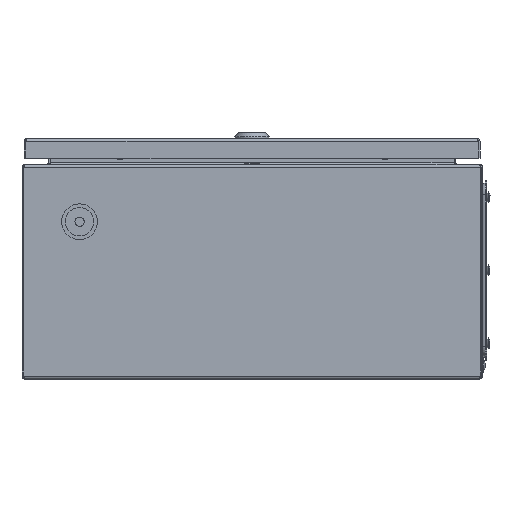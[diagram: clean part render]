
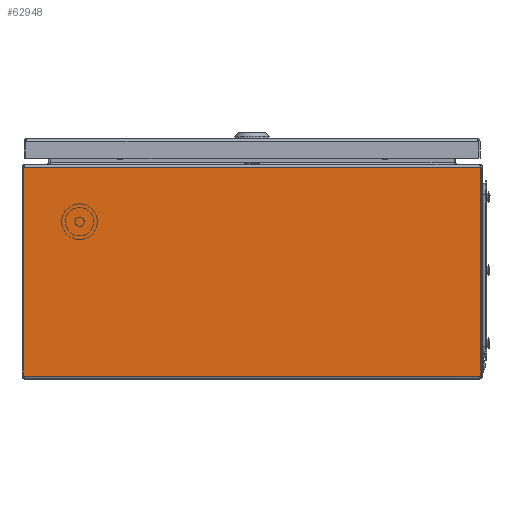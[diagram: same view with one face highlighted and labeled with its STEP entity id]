
A CAD part, left-side view. The second image highlights one B-rep face of the part: STEP entity #62948.
In plain terms, the highlighted planar face has unit normal (-1, 0, 0).
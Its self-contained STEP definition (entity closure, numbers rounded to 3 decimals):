
#2671 = ORIENTED_EDGE ( 'NONE', *, *, #141591, .T. ) ;
#9606 = CARTESIAN_POINT ( 'NONE',  ( -200., -198.623, 2.7 ) ) ;
#19235 = DIRECTION ( 'NONE',  ( 0., 0., 1. ) ) ;
#20990 = CARTESIAN_POINT ( 'NONE',  ( -200., -2200., 184.05 ) ) ;
#23463 = CARTESIAN_POINT ( 'NONE',  ( -200., -198.623, 184.05 ) ) ;
#23541 = VERTEX_POINT ( 'NONE', #62544 ) ;
#26897 = EDGE_LOOP ( 'NONE', ( #152152, #84764, #178615, #93945, #40106, #2671, #90837, #55240 ) ) ;
#28999 = CARTESIAN_POINT ( 'NONE',  ( -200., 198.729, 184.05 ) ) ;
#30241 = VERTEX_POINT ( 'NONE', #166541 ) ;
#32540 = CARTESIAN_POINT ( 'NONE',  ( -200., 198.623, 184.05 ) ) ;
#33389 = VECTOR ( 'NONE', #177936, 1000. ) ;
#37192 = DIRECTION ( 'NONE',  ( 0., 1., 0. ) ) ;
#40106 = ORIENTED_EDGE ( 'NONE', *, *, #147275, .F. ) ;
#42133 = LINE ( 'NONE', #28999, #84663 ) ;
#51034 = PLANE ( 'NONE',  #150312 ) ;
#55038 = LINE ( 'NONE', #166608, #184135 ) ;
#55240 = ORIENTED_EDGE ( 'NONE', *, *, #173904, .T. ) ;
#60308 = DIRECTION ( 'NONE',  ( 0., -1., 0. ) ) ;
#61707 = DIRECTION ( 'NONE',  ( 0., 1., 0. ) ) ;
#62544 = CARTESIAN_POINT ( 'NONE',  ( -200., 198.729, 2.7 ) ) ;
#62948 = ADVANCED_FACE ( 'NONE', ( #166386 ), #51034, .F. ) ;
#63575 = LINE ( 'NONE', #76772, #33389 ) ;
#67484 = EDGE_CURVE ( 'NONE', #90804, #23541, #68168, .T. ) ;
#68168 = LINE ( 'NONE', #79439, #98073 ) ;
#71654 = VERTEX_POINT ( 'NONE', #23463 ) ;
#72297 = VECTOR ( 'NONE', #60308, 1000. ) ;
#72309 = CARTESIAN_POINT ( 'NONE',  ( -200., 198.623, 2.7 ) ) ;
#72561 = LINE ( 'NONE', #159649, #72297 ) ;
#74720 = VERTEX_POINT ( 'NONE', #9606 ) ;
#74986 = VECTOR ( 'NONE', #61707, 1000. ) ;
#76772 = CARTESIAN_POINT ( 'NONE',  ( -200., 198.729, 2.7 ) ) ;
#79439 = CARTESIAN_POINT ( 'NONE',  ( -200., 198.623, 2.7 ) ) ;
#79913 = VECTOR ( 'NONE', #155344, 1000. ) ;
#84663 = VECTOR ( 'NONE', #87180, 1000. ) ;
#84764 = ORIENTED_EDGE ( 'NONE', *, *, #130152, .F. ) ;
#86971 = CARTESIAN_POINT ( 'NONE',  ( -200., -198.729, 2.7 ) ) ;
#87180 = DIRECTION ( 'NONE',  ( 0., -1., 0. ) ) ;
#89842 = LINE ( 'NONE', #104860, #74986 ) ;
#90804 = VERTEX_POINT ( 'NONE', #72309 ) ;
#90837 = ORIENTED_EDGE ( 'NONE', *, *, #185375, .T. ) ;
#93945 = ORIENTED_EDGE ( 'NONE', *, *, #67484, .F. ) ;
#94236 = DIRECTION ( 'NONE',  ( 1., 0., 0. ) ) ;
#95146 = VERTEX_POINT ( 'NONE', #103193 ) ;
#96115 = DIRECTION ( 'NONE',  ( 0., 0., -1. ) ) ;
#98073 = VECTOR ( 'NONE', #37192, 1000. ) ;
#100057 = LINE ( 'NONE', #157186, #79913 ) ;
#102903 = LINE ( 'NONE', #86971, #146237 ) ;
#103193 = CARTESIAN_POINT ( 'NONE',  ( -200., -198.729, 2.7 ) ) ;
#104860 = CARTESIAN_POINT ( 'NONE',  ( -200., -2200., 184.05 ) ) ;
#111342 = DIRECTION ( 'NONE',  ( 0., 1., 0. ) ) ;
#116780 = EDGE_CURVE ( 'NONE', #71654, #123993, #89842, .T. ) ;
#119130 = EDGE_CURVE ( 'NONE', #23541, #161330, #63575, .T. ) ;
#123993 = VERTEX_POINT ( 'NONE', #32540 ) ;
#130152 = EDGE_CURVE ( 'NONE', #161330, #123993, #42133, .T. ) ;
#132160 = CARTESIAN_POINT ( 'NONE',  ( -200., 198.729, 184.05 ) ) ;
#141591 = EDGE_CURVE ( 'NONE', #74720, #95146, #72561, .T. ) ;
#146237 = VECTOR ( 'NONE', #19235, 1000. ) ;
#147275 = EDGE_CURVE ( 'NONE', #74720, #90804, #55038, .T. ) ;
#150312 = AXIS2_PLACEMENT_3D ( 'NONE', #20990, #94236, #96115 ) ;
#152152 = ORIENTED_EDGE ( 'NONE', *, *, #116780, .T. ) ;
#155344 = DIRECTION ( 'NONE',  ( 0., 1., 0. ) ) ;
#157186 = CARTESIAN_POINT ( 'NONE',  ( -200., -198.729, 184.05 ) ) ;
#159649 = CARTESIAN_POINT ( 'NONE',  ( -200., -198.623, 2.7 ) ) ;
#161330 = VERTEX_POINT ( 'NONE', #132160 ) ;
#166386 = FACE_OUTER_BOUND ( 'NONE', #26897, .T. ) ;
#166541 = CARTESIAN_POINT ( 'NONE',  ( -200., -198.729, 184.05 ) ) ;
#166608 = CARTESIAN_POINT ( 'NONE',  ( -200., -2200., 2.7 ) ) ;
#173904 = EDGE_CURVE ( 'NONE', #30241, #71654, #100057, .T. ) ;
#177936 = DIRECTION ( 'NONE',  ( 0., 0., 1. ) ) ;
#178615 = ORIENTED_EDGE ( 'NONE', *, *, #119130, .F. ) ;
#184135 = VECTOR ( 'NONE', #111342, 1000. ) ;
#185375 = EDGE_CURVE ( 'NONE', #95146, #30241, #102903, .T. ) ;
